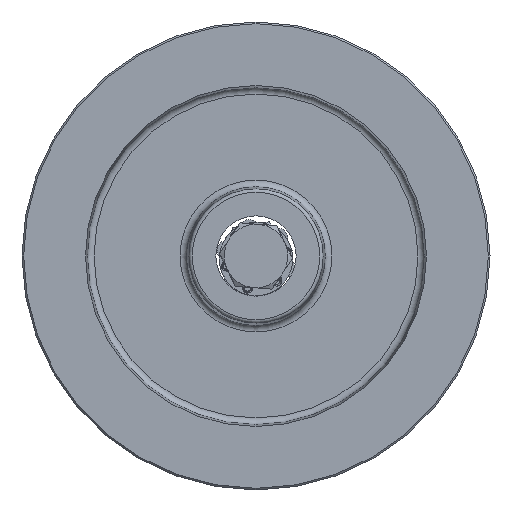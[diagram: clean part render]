
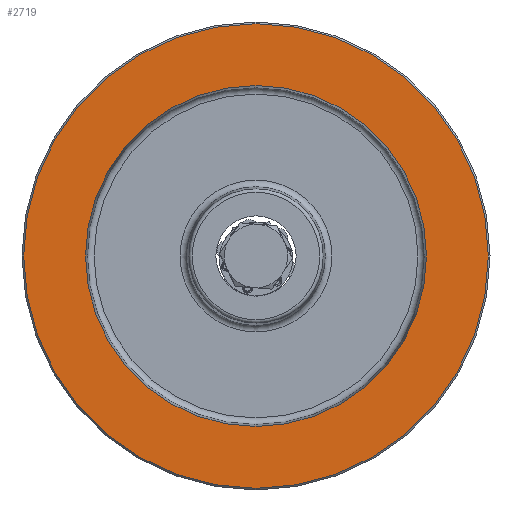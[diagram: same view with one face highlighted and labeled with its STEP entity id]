
A CAD part, left-side view. The second image highlights one B-rep face of the part: STEP entity #2719.
In plain terms, the highlighted planar face has unit normal (-1, 0, 0) as drawn and (1, 0, 0) by its records, which use the part's own axes.
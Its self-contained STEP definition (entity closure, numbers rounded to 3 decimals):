
#199=CIRCLE('',#3055,51.);
#215=CIRCLE('',#3082,69.5);
#348=FACE_BOUND('',#695,.T.);
#411=PLANE('',#3081);
#516=FACE_OUTER_BOUND('',#694,.T.);
#694=EDGE_LOOP('',(#2174));
#695=EDGE_LOOP('',(#2175));
#1315=VERTEX_POINT('',#4624);
#1327=VERTEX_POINT('',#4667);
#1611=EDGE_CURVE('',#1315,#1315,#199,.T.);
#1630=EDGE_CURVE('',#1327,#1327,#215,.T.);
#2174=ORIENTED_EDGE('',*,*,#1630,.F.);
#2175=ORIENTED_EDGE('',*,*,#1611,.T.);
#2719=ADVANCED_FACE('',(#516,#348),#411,.T.);
#3055=AXIS2_PLACEMENT_3D('',#4626,#3537,#3538);
#3081=AXIS2_PLACEMENT_3D('',#4666,#3592,#3593);
#3082=AXIS2_PLACEMENT_3D('',#4668,#3594,#3595);
#3537=DIRECTION('center_axis',(-1.,0.,0.));
#3538=DIRECTION('ref_axis',(0.,-1.,0.));
#3592=DIRECTION('center_axis',(1.,0.,0.));
#3593=DIRECTION('ref_axis',(0.,0.,-1.));
#3594=DIRECTION('center_axis',(-1.,0.,0.));
#3595=DIRECTION('ref_axis',(0.,-1.,0.));
#4624=CARTESIAN_POINT('',(12.5,51.,0.));
#4626=CARTESIAN_POINT('Origin',(12.5,0.,0.));
#4666=CARTESIAN_POINT('Origin',(12.5,-60.25,0.));
#4667=CARTESIAN_POINT('',(12.5,69.5,0.));
#4668=CARTESIAN_POINT('Origin',(12.5,0.,0.));
